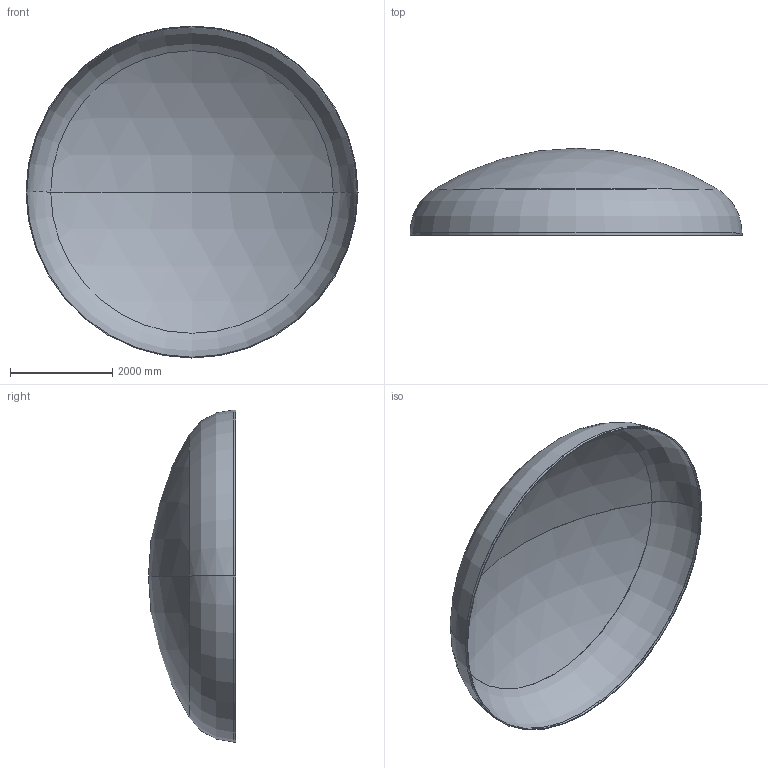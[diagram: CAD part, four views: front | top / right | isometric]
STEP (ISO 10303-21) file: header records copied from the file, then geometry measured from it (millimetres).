
FILE_DESCRIPTION (( 'STEP AP203' ), '1' );
FILE_NAME ('DIN 28013 Korbbogenform_-_Boden DIN 28013 - 6500 x 45 - I - s=15.step', '2016-07-04T10:40:05', ( '' ), ( '' ), 'SwSTEP 2.0', 'SolidWorks 2013', '' );
FILE_SCHEMA (( 'CONFIG_CONTROL_DESIGN' ));
Length unit declared in the file: millimetre
Products named in the file (1): DIN 28013 Korbbogenform_-_Boden DIN 28013 - 6500 x 45 - I - s=15
Bounding box: 6500 x 1704.05 x 6500 mm (x, y, z)
Volume: 700947951.7 mm3; surface area: 93765758 mm2
Topology: 1 solids, 1 shells, 13 faces, 24 edges, 14 vertices
Faces by surface type: torus 4, cylinder 4, sphere 4, plane 1
Entity records: 407 total; most frequent: DIRECTION 72, CARTESIAN_POINT 52, ORIENTED_EDGE 48, AXIS2_PLACEMENT_3D 34, EDGE_CURVE 24, CIRCLE 20, EDGE_LOOP 14, VERTEX_POINT 14
